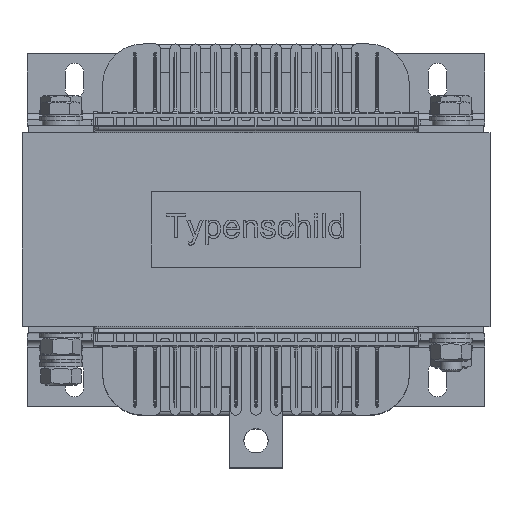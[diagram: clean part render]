
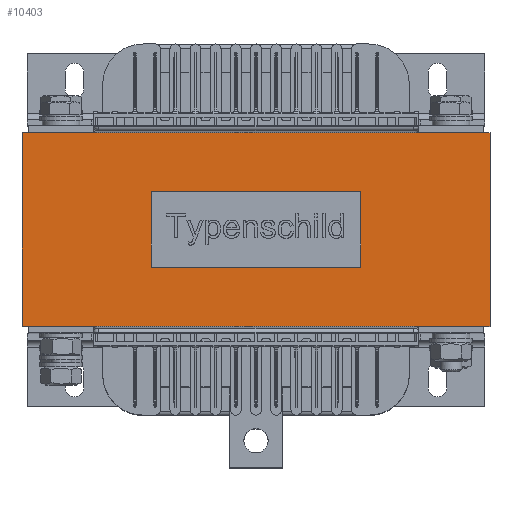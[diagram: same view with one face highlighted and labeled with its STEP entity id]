
A CAD part, top view. The second image highlights one B-rep face of the part: STEP entity #10403.
In plain terms, the highlighted planar face has unit normal (0, 0, 1).
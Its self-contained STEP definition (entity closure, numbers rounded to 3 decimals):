
#10150=CARTESIAN_POINT('',(-87.,36.,73.5));
#10151=VERTEX_POINT('',#10150);
#10158=CARTESIAN_POINT('',(87.,36.,73.5));
#10159=VERTEX_POINT('',#10158);
#10160=CARTESIAN_POINT('',(87.,36.,73.5));
#10161=DIRECTION('',(-1.0,0.0,0.0));
#10162=VECTOR('',#10161,174.);
#10163=LINE('',#10160,#10162);
#10164=EDGE_CURVE('',#10159,#10151,#10163,.T.);
#10313=CARTESIAN_POINT('',(87.,-36.,73.5));
#10314=VERTEX_POINT('',#10313);
#10321=CARTESIAN_POINT('',(-87.,-36.,73.5));
#10322=VERTEX_POINT('',#10321);
#10323=CARTESIAN_POINT('',(-87.,-36.,73.5));
#10324=DIRECTION('',(1.0,0.0,0.0));
#10325=VECTOR('',#10324,174.);
#10326=LINE('',#10323,#10325);
#10327=EDGE_CURVE('',#10322,#10314,#10326,.T.);
#10348=CARTESIAN_POINT('',(-87.,0.0,73.5));
#10349=DIRECTION('',(0.0,0.0,1.0));
#10350=DIRECTION('',(-1.0,0.0,0.0));
#10351=AXIS2_PLACEMENT_3D('',#10348,#10349,#10350);
#10352=PLANE('',#10351);
#10353=ORIENTED_EDGE('',*,*,#10327,.T.);
#10354=CARTESIAN_POINT('',(87.,-36.,73.5));
#10355=DIRECTION('',(0.0,1.0,0.0));
#10356=VECTOR('',#10355,72.);
#10357=LINE('',#10354,#10356);
#10358=EDGE_CURVE('',#10314,#10159,#10357,.T.);
#10359=ORIENTED_EDGE('',*,*,#10358,.T.);
#10360=ORIENTED_EDGE('',*,*,#10164,.T.);
#10361=CARTESIAN_POINT('',(-87.,36.,73.5));
#10362=DIRECTION('',(0.0,-1.0,0.0));
#10363=VECTOR('',#10362,72.);
#10364=LINE('',#10361,#10363);
#10365=EDGE_CURVE('',#10151,#10322,#10364,.T.);
#10366=ORIENTED_EDGE('',*,*,#10365,.T.);
#10367=EDGE_LOOP('',(#10353,#10359,#10360,#10366));
#10368=FACE_OUTER_BOUND('',#10367,.T.);
#10369=CARTESIAN_POINT('',(-39.,14.,73.5));
#10370=VERTEX_POINT('',#10369);
#10371=CARTESIAN_POINT('',(-39.,-14.,73.5));
#10372=VERTEX_POINT('',#10371);
#10373=CARTESIAN_POINT('',(-39.,14.,73.5));
#10374=DIRECTION('',(0.0,-1.0,0.0));
#10375=VECTOR('',#10374,28.);
#10376=LINE('',#10373,#10375);
#10377=EDGE_CURVE('',#10370,#10372,#10376,.T.);
#10378=ORIENTED_EDGE('',*,*,#10377,.F.);
#10379=CARTESIAN_POINT('',(39.,14.,73.5));
#10380=VERTEX_POINT('',#10379);
#10381=CARTESIAN_POINT('',(39.,14.,73.5));
#10382=DIRECTION('',(-1.0,0.0,0.0));
#10383=VECTOR('',#10382,78.0);
#10384=LINE('',#10381,#10383);
#10385=EDGE_CURVE('',#10380,#10370,#10384,.T.);
#10386=ORIENTED_EDGE('',*,*,#10385,.F.);
#10387=CARTESIAN_POINT('',(39.,-14.,73.5));
#10388=VERTEX_POINT('',#10387);
#10389=CARTESIAN_POINT('',(39.,-14.,73.5));
#10390=DIRECTION('',(0.0,1.0,0.0));
#10391=VECTOR('',#10390,28.);
#10392=LINE('',#10389,#10391);
#10393=EDGE_CURVE('',#10388,#10380,#10392,.T.);
#10394=ORIENTED_EDGE('',*,*,#10393,.F.);
#10395=CARTESIAN_POINT('',(-39.,-14.,73.5));
#10396=DIRECTION('',(1.0,0.0,0.0));
#10397=VECTOR('',#10396,78.);
#10398=LINE('',#10395,#10397);
#10399=EDGE_CURVE('',#10372,#10388,#10398,.T.);
#10400=ORIENTED_EDGE('',*,*,#10399,.F.);
#10401=EDGE_LOOP('',(#10378,#10386,#10394,#10400));
#10402=FACE_BOUND('',#10401,.T.);
#10403=ADVANCED_FACE('',(#10368,#10402),#10352,.T.);
